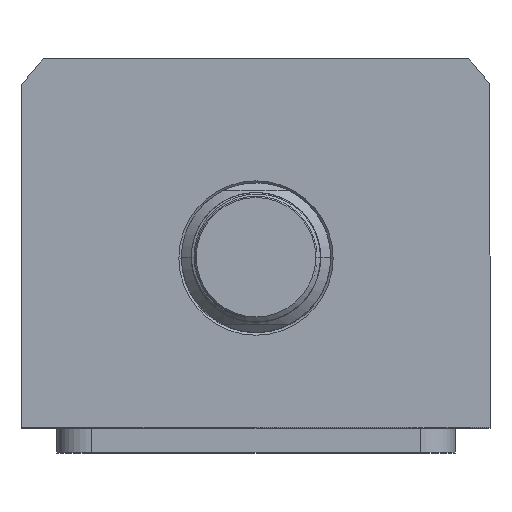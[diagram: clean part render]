
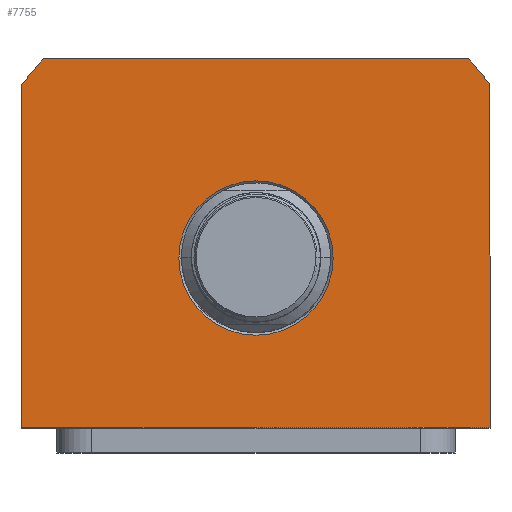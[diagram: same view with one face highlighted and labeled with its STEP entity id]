
A CAD part, top view. The second image highlights one B-rep face of the part: STEP entity #7755.
In plain terms, the highlighted planar face has unit normal (0, 0, 1).
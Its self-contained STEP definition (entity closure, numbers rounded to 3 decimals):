
#290 = VERTEX_POINT ( 'NONE', #2091 ) ;
#309 = EDGE_LOOP ( 'NONE', ( #9004, #12557 ) ) ;
#421 = CIRCLE ( 'NONE', #13004, 15.5 ) ;
#778 = DIRECTION ( 'NONE',  ( 0., 0., -1. ) ) ;
#954 = VERTEX_POINT ( 'NONE', #5234 ) ;
#1358 = LINE ( 'NONE', #14297, #6816 ) ;
#1412 = DIRECTION ( 'NONE',  ( 0., 0., -1. ) ) ;
#1420 = DIRECTION ( 'NONE',  ( 1., 0., 0. ) ) ;
#2061 = CARTESIAN_POINT ( 'NONE',  ( 0., 0., 62.5 ) ) ;
#2091 = CARTESIAN_POINT ( 'NONE',  ( 42.688, 40., 62.5 ) ) ;
#2140 = DIRECTION ( 'NONE',  ( 1., 0., 0. ) ) ;
#2448 = CIRCLE ( 'NONE', #8069, 15.5 ) ;
#2461 = CARTESIAN_POINT ( 'NONE',  ( -42.688, 40., 62.5 ) ) ;
#3195 = CARTESIAN_POINT ( 'NONE',  ( 15.5, 0., 62.5 ) ) ;
#3880 = EDGE_CURVE ( 'NONE', #290, #18329, #4365, .T. ) ;
#3892 = LINE ( 'NONE', #9681, #17452 ) ;
#4309 = CARTESIAN_POINT ( 'NONE',  ( 0., 0., 62.5 ) ) ;
#4332 = EDGE_CURVE ( 'NONE', #954, #290, #17245, .T. ) ;
#4365 = LINE ( 'NONE', #2461, #18181 ) ;
#4540 = VERTEX_POINT ( 'NONE', #12206 ) ;
#5117 = CARTESIAN_POINT ( 'NONE',  ( 47., 34.832, 62.5 ) ) ;
#5217 = EDGE_CURVE ( 'NONE', #6613, #5946, #2448, .T. ) ;
#5234 = CARTESIAN_POINT ( 'NONE',  ( 47., 34.832, 62.5 ) ) ;
#5302 = DIRECTION ( 'NONE',  ( 0., 1., 0. ) ) ;
#5334 = EDGE_CURVE ( 'NONE', #4540, #11709, #3892, .T. ) ;
#5482 = CARTESIAN_POINT ( 'NONE',  ( -42.688, 40., 62.5 ) ) ;
#5946 = VERTEX_POINT ( 'NONE', #8853 ) ;
#6450 = AXIS2_PLACEMENT_3D ( 'NONE', #2061, #11084, #12701 ) ;
#6613 = VERTEX_POINT ( 'NONE', #3195 ) ;
#6816 = VECTOR ( 'NONE', #9804, 1000. ) ;
#7100 = DIRECTION ( 'NONE',  ( 0., 0., 1. ) ) ;
#7398 = EDGE_CURVE ( 'NONE', #11709, #954, #18373, .T. ) ;
#7537 = ORIENTED_EDGE ( 'NONE', *, *, #5334, .T. ) ;
#7542 = AXIS2_PLACEMENT_3D ( 'NONE', #16864, #12256, #1420 ) ;
#7755 = ADVANCED_FACE ( 'NONE', ( #8704, #16571 ), #8007, .T. ) ;
#7800 = VERTEX_POINT ( 'NONE', #14300 ) ;
#7850 = CIRCLE ( 'NONE', #16419, 58.5 ) ;
#8007 = PLANE ( 'NONE',  #6450 ) ;
#8069 = AXIS2_PLACEMENT_3D ( 'NONE', #19657, #1412, #2140 ) ;
#8704 = FACE_BOUND ( 'NONE', #309, .T. ) ;
#8853 = CARTESIAN_POINT ( 'NONE',  ( -15.5, 0., 62.5 ) ) ;
#9004 = ORIENTED_EDGE ( 'NONE', *, *, #5217, .T. ) ;
#9501 = ORIENTED_EDGE ( 'NONE', *, *, #3880, .T. ) ;
#9575 = ORIENTED_EDGE ( 'NONE', *, *, #4332, .T. ) ;
#9681 = CARTESIAN_POINT ( 'NONE',  ( 47., -34., 62.5 ) ) ;
#9804 = DIRECTION ( 'NONE',  ( 0., -1., 0. ) ) ;
#9884 = DIRECTION ( 'NONE',  ( -1., 0., 0. ) ) ;
#11084 = DIRECTION ( 'NONE',  ( 0., 0., 1. ) ) ;
#11391 = DIRECTION ( 'NONE',  ( 1., 0., 0. ) ) ;
#11709 = VERTEX_POINT ( 'NONE', #13889 ) ;
#12206 = CARTESIAN_POINT ( 'NONE',  ( -47., -34., 62.5 ) ) ;
#12256 = DIRECTION ( 'NONE',  ( 0., 0., 1. ) ) ;
#12557 = ORIENTED_EDGE ( 'NONE', *, *, #14813, .T. ) ;
#12701 = DIRECTION ( 'NONE',  ( 1., 0., 0. ) ) ;
#13004 = AXIS2_PLACEMENT_3D ( 'NONE', #17415, #778, #11391 ) ;
#13278 = DIRECTION ( 'NONE',  ( 1., 0., 0. ) ) ;
#13889 = CARTESIAN_POINT ( 'NONE',  ( 47., -34., 62.5 ) ) ;
#14297 = CARTESIAN_POINT ( 'NONE',  ( -47., -34., 62.5 ) ) ;
#14300 = CARTESIAN_POINT ( 'NONE',  ( -47., 34.832, 62.5 ) ) ;
#14456 = ORIENTED_EDGE ( 'NONE', *, *, #7398, .T. ) ;
#14519 = EDGE_CURVE ( 'NONE', #7800, #4540, #1358, .T. ) ;
#14813 = EDGE_CURVE ( 'NONE', #5946, #6613, #421, .T. ) ;
#16019 = ORIENTED_EDGE ( 'NONE', *, *, #14519, .T. ) ;
#16419 = AXIS2_PLACEMENT_3D ( 'NONE', #4309, #7100, #13278 ) ;
#16571 = FACE_OUTER_BOUND ( 'NONE', #19056, .T. ) ;
#16864 = CARTESIAN_POINT ( 'NONE',  ( 0., 0., 62.5 ) ) ;
#17187 = VECTOR ( 'NONE', #5302, 1000. ) ;
#17242 = EDGE_CURVE ( 'NONE', #18329, #7800, #7850, .T. ) ;
#17245 = CIRCLE ( 'NONE', #7542, 58.5 ) ;
#17415 = CARTESIAN_POINT ( 'NONE',  ( 0., 0., 62.5 ) ) ;
#17444 = DIRECTION ( 'NONE',  ( 1., 0., 0. ) ) ;
#17452 = VECTOR ( 'NONE', #17444, 1000. ) ;
#17738 = ORIENTED_EDGE ( 'NONE', *, *, #17242, .T. ) ;
#18181 = VECTOR ( 'NONE', #9884, 1000. ) ;
#18329 = VERTEX_POINT ( 'NONE', #5482 ) ;
#18373 = LINE ( 'NONE', #5117, #17187 ) ;
#19056 = EDGE_LOOP ( 'NONE', ( #7537, #14456, #9575, #9501, #17738, #16019 ) ) ;
#19657 = CARTESIAN_POINT ( 'NONE',  ( 0., 0., 62.5 ) ) ;
